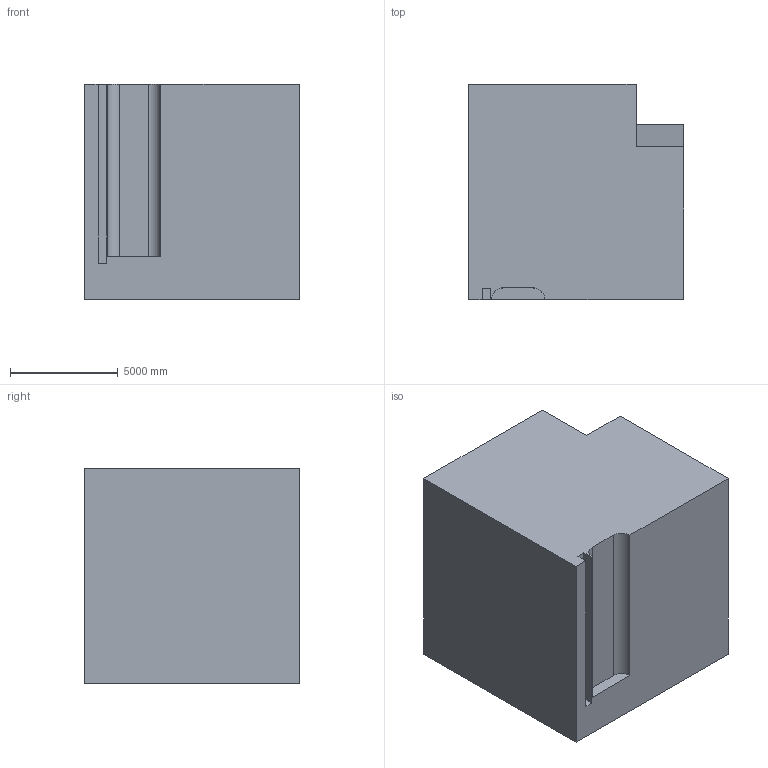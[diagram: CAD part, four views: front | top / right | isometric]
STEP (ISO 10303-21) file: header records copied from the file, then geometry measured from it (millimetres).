
FILE_DESCRIPTION (( 'STEP AP203' ), '1' );
FILE_NAME ('120.STEP', '2022-09-06T13:19:03', ( 'user' ), ( '' ), 'SwSTEP 2.0', 'SolidWorks 2021', '' );
FILE_SCHEMA (( 'CONFIG_CONTROL_DESIGN' ));
Length unit declared in the file: centimetre
Products named in the file (1): 120
Bounding box: 10000 x 10000 x 10000 mm (x, y, z)
Volume: 935864748980.4 mm3; surface area: 601255023.9 mm2
Topology: 1 solids, 1 shells, 17 faces, 45 edges, 30 vertices
Faces by surface type: plane 15, cylinder 2
Entity records: 600 total; most frequent: CARTESIAN_POINT 93, ORIENTED_EDGE 90, DIRECTION 85, EDGE_CURVE 45, LINE 41, VECTOR 41, VERTEX_POINT 30, AXIS2_PLACEMENT_3D 22
